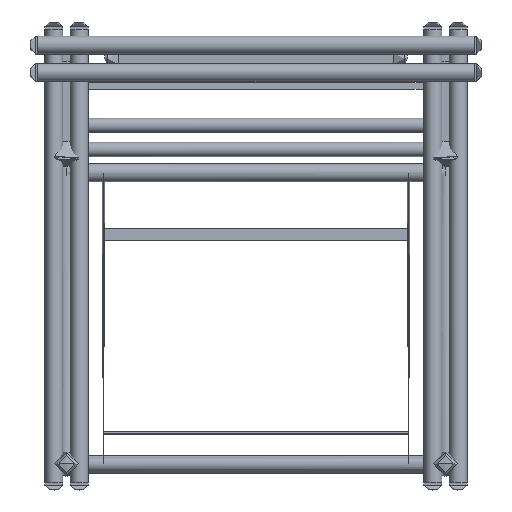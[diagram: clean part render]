
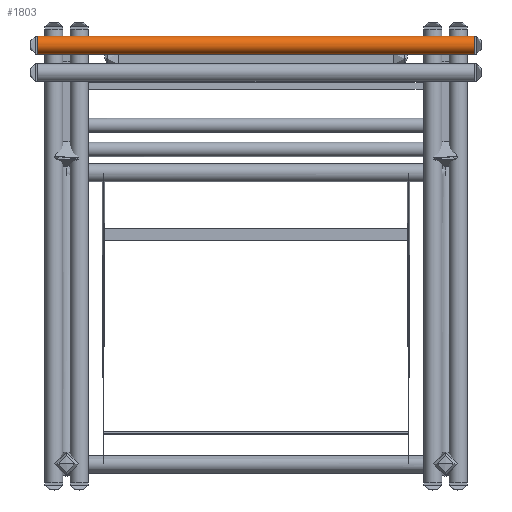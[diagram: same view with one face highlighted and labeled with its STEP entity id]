
A CAD part, top view. The second image highlights one B-rep face of the part: STEP entity #1803.
In plain terms, the highlighted free-form (B-spline) face has degree [2, 1] with [5, 2] control points.
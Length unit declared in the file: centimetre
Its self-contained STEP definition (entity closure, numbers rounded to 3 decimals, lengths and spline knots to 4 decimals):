
#400=(
BOUNDED_CURVE()
B_SPLINE_CURVE(2,(#22564,#22565,#22566,#22567,#22568),.UNSPECIFIED.,.F.,
 .F.)
B_SPLINE_CURVE_WITH_KNOTS((3,2,3),(-17.9071,-14.9226,
-11.9381),.UNSPECIFIED.)
CURVE()
GEOMETRIC_REPRESENTATION_ITEM()
RATIONAL_B_SPLINE_CURVE((1.,0.707,1.,0.707,1.))
REPRESENTATION_ITEM('')
);
#401=(
BOUNDED_CURVE()
B_SPLINE_CURVE(2,(#22569,#22570,#22571,#22572,#22573),.UNSPECIFIED.,.F.,
 .F.)
B_SPLINE_CURVE_WITH_KNOTS((3,2,3),(-17.9071,-14.9226,
-11.9381),.UNSPECIFIED.)
CURVE()
GEOMETRIC_REPRESENTATION_ITEM()
RATIONAL_B_SPLINE_CURVE((1.,0.707,1.,0.707,1.))
REPRESENTATION_ITEM('')
);
#402=(
BOUNDED_CURVE()
B_SPLINE_CURVE(2,(#22584,#22585,#22586,#22587,#22588),.UNSPECIFIED.,.F.,
 .F.)
B_SPLINE_CURVE_WITH_KNOTS((3,2,3),(5.969,8.9535,11.9381),
 .UNSPECIFIED.)
CURVE()
GEOMETRIC_REPRESENTATION_ITEM()
RATIONAL_B_SPLINE_CURVE((1.,0.707,1.,0.707,1.))
REPRESENTATION_ITEM('')
);
#403=(
BOUNDED_CURVE()
B_SPLINE_CURVE(2,(#22591,#22592,#22593,#22594,#22595),.UNSPECIFIED.,.F.,
 .F.)
B_SPLINE_CURVE_WITH_KNOTS((3,2,3),(5.969,8.9535,11.9381),
 .UNSPECIFIED.)
CURVE()
GEOMETRIC_REPRESENTATION_ITEM()
RATIONAL_B_SPLINE_CURVE((1.,0.707,1.,0.707,1.))
REPRESENTATION_ITEM('')
);
#702=B_SPLINE_SURFACE_WITH_KNOTS('',1,1,((#22522,#22523),(#22524,#22525)),
 .UNSPECIFIED.,.F.,.F.,.F.,(2,2),(2,2),(-1.91,1.91),
(-1.91,1.91),.UNSPECIFIED.);
#703=B_SPLINE_SURFACE_WITH_KNOTS('',1,1,((#22536,#22537),(#22538,#22539)),
 .UNSPECIFIED.,.F.,.F.,.F.,(2,2),(2,2),(-1.91,1.91),
(-1.91,1.91),.UNSPECIFIED.);
#1803=ADVANCED_FACE('',(#2155),#9911,.T.);
#2155=FACE_OUTER_BOUND('',#2517,.T.);
#2517=EDGE_LOOP('',(#3534,#3535,#3536,#3537));
#3534=ORIENTED_EDGE('',*,*,#7715,.T.);
#3535=ORIENTED_EDGE('',*,*,#7714,.F.);
#3536=ORIENTED_EDGE('',*,*,#7716,.T.);
#3537=ORIENTED_EDGE('',*,*,#7717,.T.);
#4855=PCURVE('',#702,#6177);
#4856=PCURVE('',#9911,#6178);
#4857=PCURVE('',#9911,#6179);
#4858=PCURVE('',#9911,#6180);
#4859=PCURVE('',#9911,#6181);
#4860=PCURVE('',#703,#6182);
#4863=PCURVE('',#9912,#6185);
#4865=PCURVE('',#9912,#6187);
#6177=DEFINITIONAL_REPRESENTATION('',(#401),#28418);
#6178=DEFINITIONAL_REPRESENTATION('',(#8904),#28418);
#6179=DEFINITIONAL_REPRESENTATION('',(#8905),#28418);
#6180=DEFINITIONAL_REPRESENTATION('',(#8907),#28418);
#6181=DEFINITIONAL_REPRESENTATION('',(#8908),#28418);
#6182=DEFINITIONAL_REPRESENTATION('',(#403),#28418);
#6185=DEFINITIONAL_REPRESENTATION('',(#8910),#28418);
#6187=DEFINITIONAL_REPRESENTATION('',(#8912),#28418);
#7053=SURFACE_CURVE('',#400,(#4855,#4857),.PCURVE_S1.);
#7054=SURFACE_CURVE('',#8903,(#4856,#4865),.PCURVE_S1.);
#7055=SURFACE_CURVE('',#8906,(#4858,#4863),.PCURVE_S1.);
#7056=SURFACE_CURVE('',#402,(#4859,#4860),.PCURVE_S1.);
#7714=EDGE_CURVE('',#9617,#9616,#7053,.T.);
#7715=EDGE_CURVE('',#9619,#9616,#7054,.T.);
#7716=EDGE_CURVE('',#9617,#9618,#7055,.T.);
#7717=EDGE_CURVE('',#9618,#9619,#7056,.T.);
#8903=B_SPLINE_CURVE_WITH_KNOTS('',1,(#22574,#22575),.UNSPECIFIED.,.F.,
 .F.,(2,2),(0.01,92.11),.UNSPECIFIED.);
#8904=B_SPLINE_CURVE_WITH_KNOTS('',1,(#22576,#22577),.UNSPECIFIED.,.F.,
 .F.,(2,2),(0.01,92.11),.UNSPECIFIED.);
#8905=B_SPLINE_CURVE_WITH_KNOTS('',1,(#22578,#22579),.UNSPECIFIED.,.F.,
 .F.,(2,2),(-17.9071,-11.9381),.UNSPECIFIED.);
#8906=B_SPLINE_CURVE_WITH_KNOTS('',1,(#22580,#22581),.UNSPECIFIED.,.F.,
 .F.,(2,2),(-92.11,-0.01),.UNSPECIFIED.);
#8907=B_SPLINE_CURVE_WITH_KNOTS('',1,(#22582,#22583),.UNSPECIFIED.,.F.,
 .F.,(2,2),(-92.11,-0.01),.UNSPECIFIED.);
#8908=B_SPLINE_CURVE_WITH_KNOTS('',1,(#22589,#22590),.UNSPECIFIED.,.F.,
 .F.,(2,2),(5.969,11.9381),.UNSPECIFIED.);
#8910=B_SPLINE_CURVE_WITH_KNOTS('',1,(#22608,#22609),.UNSPECIFIED.,.F.,
 .F.,(2,2),(-92.11,-0.01),.UNSPECIFIED.);
#8912=B_SPLINE_CURVE_WITH_KNOTS('',1,(#22612,#22613),.UNSPECIFIED.,.F.,
 .F.,(2,2),(0.01,92.11),.UNSPECIFIED.);
#9616=VERTEX_POINT('',#22550);
#9617=VERTEX_POINT('',#22551);
#9618=VERTEX_POINT('',#22552);
#9619=VERTEX_POINT('',#22553);
#9911=(
BOUNDED_SURFACE()
B_SPLINE_SURFACE(2,1,((#22526,#22527),(#22528,#22529),(#22530,#22531),(#22532,
#22533),(#22534,#22535)),.UNSPECIFIED.,.F.,.F.,.F.)
B_SPLINE_SURFACE_WITH_KNOTS((3,2,3),(2,2),(-3.1416,-1.5708,
0.),(0.,92.12),.UNSPECIFIED.)
GEOMETRIC_REPRESENTATION_ITEM()
RATIONAL_B_SPLINE_SURFACE(((1.,1.),(0.707,0.707),
(1.,1.),(0.707,0.707),(1.,1.)))
REPRESENTATION_ITEM('')
SURFACE()
);
#9912=(
BOUNDED_SURFACE()
B_SPLINE_SURFACE(2,1,((#22540,#22541),(#22542,#22543),(#22544,#22545),(#22546,
#22547),(#22548,#22549)),.UNSPECIFIED.,.F.,.F.,.F.)
B_SPLINE_SURFACE_WITH_KNOTS((3,2,3),(2,2),(0.,1.5708,3.1416),
(0.,92.12),.UNSPECIFIED.)
GEOMETRIC_REPRESENTATION_ITEM()
RATIONAL_B_SPLINE_SURFACE(((1.,1.),(0.707,0.707),
(1.,1.),(0.707,0.707),(1.,1.)))
REPRESENTATION_ITEM('')
SURFACE()
);
#22522=CARTESIAN_POINT('',(-46.05,43.9532,53.24));
#22523=CARTESIAN_POINT('',(-46.05,47.7732,53.24));
#22524=CARTESIAN_POINT('',(-46.05,43.9532,57.06));
#22525=CARTESIAN_POINT('',(-46.05,47.7732,57.06));
#22526=CARTESIAN_POINT('',(46.06,43.9632,55.15));
#22527=CARTESIAN_POINT('',(-46.06,43.9632,55.15));
#22528=CARTESIAN_POINT('',(46.06,43.9632,57.05));
#22529=CARTESIAN_POINT('',(-46.06,43.9632,57.05));
#22530=CARTESIAN_POINT('',(46.06,45.8632,57.05));
#22531=CARTESIAN_POINT('',(-46.06,45.8632,57.05));
#22532=CARTESIAN_POINT('',(46.06,47.7632,57.05));
#22533=CARTESIAN_POINT('',(-46.06,47.7632,57.05));
#22534=CARTESIAN_POINT('',(46.06,47.7632,55.15));
#22535=CARTESIAN_POINT('',(-46.06,47.7632,55.15));
#22536=CARTESIAN_POINT('',(46.05,47.7732,53.24));
#22537=CARTESIAN_POINT('',(46.05,43.9532,53.24));
#22538=CARTESIAN_POINT('',(46.05,47.7732,57.06));
#22539=CARTESIAN_POINT('',(46.05,43.9532,57.06));
#22540=CARTESIAN_POINT('',(46.06,47.7632,55.15));
#22541=CARTESIAN_POINT('',(-46.06,47.7632,55.15));
#22542=CARTESIAN_POINT('',(46.06,47.7632,53.25));
#22543=CARTESIAN_POINT('',(-46.06,47.7632,53.25));
#22544=CARTESIAN_POINT('',(46.06,45.8632,53.25));
#22545=CARTESIAN_POINT('',(-46.06,45.8632,53.25));
#22546=CARTESIAN_POINT('',(46.06,43.9632,53.25));
#22547=CARTESIAN_POINT('',(-46.06,43.9632,53.25));
#22548=CARTESIAN_POINT('',(46.06,43.9632,55.15));
#22549=CARTESIAN_POINT('',(-46.06,43.9632,55.15));
#22550=CARTESIAN_POINT('',(-46.05,47.7632,55.15));
#22551=CARTESIAN_POINT('',(-46.05,43.9632,55.15));
#22552=CARTESIAN_POINT('',(46.05,43.9632,55.15));
#22553=CARTESIAN_POINT('',(46.05,47.7632,55.15));
#22564=CARTESIAN_POINT('',(-46.05,43.9632,55.15));
#22565=CARTESIAN_POINT('',(-46.05,43.9632,57.05));
#22566=CARTESIAN_POINT('',(-46.05,45.8632,57.05));
#22567=CARTESIAN_POINT('',(-46.05,47.7632,57.05));
#22568=CARTESIAN_POINT('',(-46.05,47.7632,55.15));
#22569=CARTESIAN_POINT('',(0.,-1.9));
#22570=CARTESIAN_POINT('',(1.9,-1.9));
#22571=CARTESIAN_POINT('',(1.9,0.));
#22572=CARTESIAN_POINT('',(1.9,1.9));
#22573=CARTESIAN_POINT('',(0.,1.9));
#22574=CARTESIAN_POINT('',(46.05,47.7632,55.15));
#22575=CARTESIAN_POINT('',(-46.05,47.7632,55.15));
#22576=CARTESIAN_POINT('',(0.,0.01));
#22577=CARTESIAN_POINT('',(0.,92.11));
#22578=CARTESIAN_POINT('',(-3.142,92.11));
#22579=CARTESIAN_POINT('',(0.,92.11));
#22580=CARTESIAN_POINT('',(-46.05,43.9632,55.15));
#22581=CARTESIAN_POINT('',(46.05,43.9632,55.15));
#22582=CARTESIAN_POINT('',(-3.142,92.11));
#22583=CARTESIAN_POINT('',(-3.142,0.01));
#22584=CARTESIAN_POINT('',(46.05,43.9632,55.15));
#22585=CARTESIAN_POINT('',(46.05,43.9632,57.05));
#22586=CARTESIAN_POINT('',(46.05,45.8632,57.05));
#22587=CARTESIAN_POINT('',(46.05,47.7632,57.05));
#22588=CARTESIAN_POINT('',(46.05,47.7632,55.15));
#22589=CARTESIAN_POINT('',(-3.142,0.01));
#22590=CARTESIAN_POINT('',(0.,0.01));
#22591=CARTESIAN_POINT('',(0.,1.9));
#22592=CARTESIAN_POINT('',(1.9,1.9));
#22593=CARTESIAN_POINT('',(1.9,0.));
#22594=CARTESIAN_POINT('',(1.9,-1.9));
#22595=CARTESIAN_POINT('',(0.,-1.9));
#22608=CARTESIAN_POINT('',(3.142,92.11));
#22609=CARTESIAN_POINT('',(3.142,0.01));
#22612=CARTESIAN_POINT('',(0.,0.01));
#22613=CARTESIAN_POINT('',(0.,92.11));
#28418=(
GEOMETRIC_REPRESENTATION_CONTEXT(2)
PARAMETRIC_REPRESENTATION_CONTEXT()
REPRESENTATION_CONTEXT('pspace','')
);
